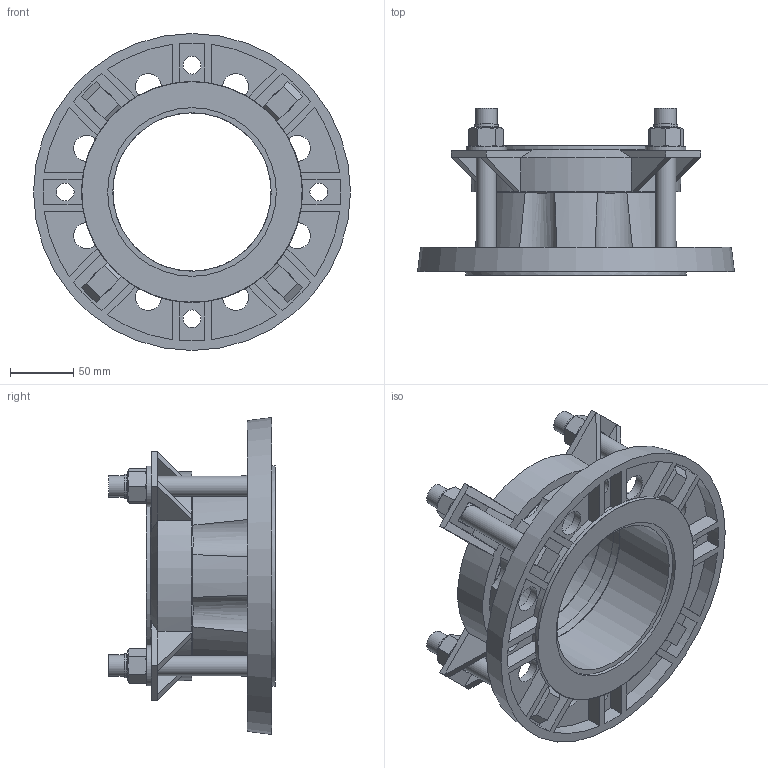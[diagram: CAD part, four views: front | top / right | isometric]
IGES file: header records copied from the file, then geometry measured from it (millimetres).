
Start section: SolidWorks IGES file using analytic representation for surfaces
Global section: file name: \\avksan2\techshare\PBM outline export from Enovia\O_623_10_DN125-125mm_X1XXXXX_REV01.igs; native system: SolidWorks 2019; preprocessor: SolidWorks 2019; author: pbm; date: 200417.103603; units: millimetre
Bounding box: 250 x 131.5 x 250 mm (x, y, z)
Surface area: 264828.8 mm2 (no closed solid volume)
Topology: 0 solids, 0 shells, 449 faces, 2244 edges, 2188 vertices
Faces by surface type: bspline 265, revolution 184
